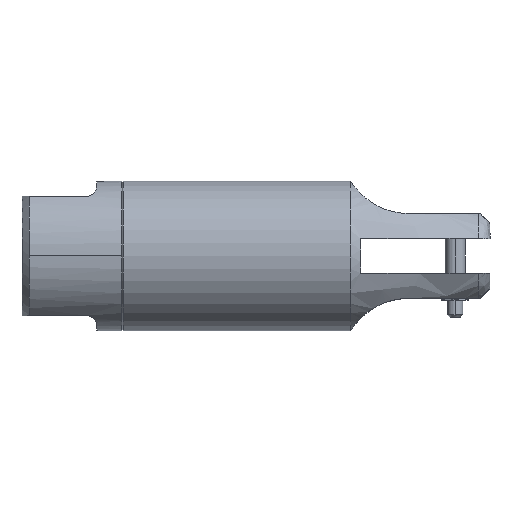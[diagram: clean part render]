
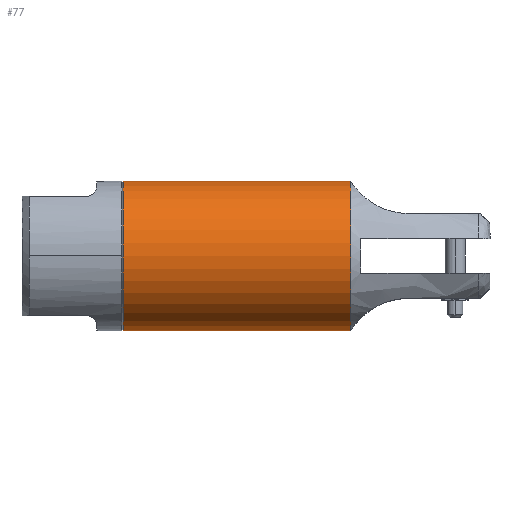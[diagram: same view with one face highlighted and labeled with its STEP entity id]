
A CAD part, top view. The second image highlights one B-rep face of the part: STEP entity #77.
In plain terms, the highlighted cylindrical face has radius 15 mm (diameter 30 mm), a partial arc.
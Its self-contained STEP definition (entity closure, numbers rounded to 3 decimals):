
#77 = ADVANCED_FACE ( 'NONE', ( #1705 ), #3536, .T. ) ;
#101 = ORIENTED_EDGE ( 'NONE', *, *, #1030, .F. ) ;
#126 = CARTESIAN_POINT ( 'NONE',  ( 22.85, 0., 0. ) ) ;
#212 = CARTESIAN_POINT ( 'NONE',  ( -22.85, 0., 15. ) ) ;
#390 = EDGE_LOOP ( 'NONE', ( #2101, #730, #101, #965, #3627 ) ) ;
#419 = AXIS2_PLACEMENT_3D ( 'NONE', #975, #1992, #1344 ) ;
#600 = CARTESIAN_POINT ( 'NONE',  ( 22.85, 0., 0. ) ) ;
#685 = DIRECTION ( 'NONE',  ( -1., 0., 0. ) ) ;
#702 = EDGE_CURVE ( 'NONE', #4684, #2355, #4637, .T. ) ;
#712 = DIRECTION ( 'NONE',  ( -1., 0., 0. ) ) ;
#716 = AXIS2_PLACEMENT_3D ( 'NONE', #2849, #685, #3207 ) ;
#730 = ORIENTED_EDGE ( 'NONE', *, *, #702, .T. ) ;
#965 = ORIENTED_EDGE ( 'NONE', *, *, #2793, .F. ) ;
#967 = CIRCLE ( 'NONE', #3841, 15. ) ;
#975 = CARTESIAN_POINT ( 'NONE',  ( -22.85, 0., 0. ) ) ;
#983 = DIRECTION ( 'NONE',  ( -1., 0., 0. ) ) ;
#1030 = EDGE_CURVE ( 'NONE', #3282, #2355, #4446, .T. ) ;
#1258 = EDGE_CURVE ( 'NONE', #1868, #4684, #967, .T. ) ;
#1311 = CARTESIAN_POINT ( 'NONE',  ( 22.85, -15., 0. ) ) ;
#1344 = DIRECTION ( 'NONE',  ( 0., 0., 1. ) ) ;
#1438 = LINE ( 'NONE', #1311, #4484 ) ;
#1705 = FACE_OUTER_BOUND ( 'NONE', #390, .T. ) ;
#1845 = CIRCLE ( 'NONE', #716, 15. ) ;
#1868 = VERTEX_POINT ( 'NONE', #3778 ) ;
#1967 = EDGE_CURVE ( 'NONE', #1868, #4678, #1438, .T. ) ;
#1992 = DIRECTION ( 'NONE',  ( -1., 0., 0. ) ) ;
#2048 = DIRECTION ( 'NONE',  ( -1., 0., 0. ) ) ;
#2101 = ORIENTED_EDGE ( 'NONE', *, *, #1258, .T. ) ;
#2355 = VERTEX_POINT ( 'NONE', #3414 ) ;
#2436 = DIRECTION ( 'NONE',  ( 0., -1., 0. ) ) ;
#2653 = DIRECTION ( 'NONE',  ( -1., 0., 0. ) ) ;
#2793 = EDGE_CURVE ( 'NONE', #4678, #3282, #1845, .T. ) ;
#2849 = CARTESIAN_POINT ( 'NONE',  ( -22.85, 0., 0. ) ) ;
#3207 = DIRECTION ( 'NONE',  ( 0., 0., 1. ) ) ;
#3265 = CARTESIAN_POINT ( 'NONE',  ( 22.85, 15., 0. ) ) ;
#3282 = VERTEX_POINT ( 'NONE', #212 ) ;
#3313 = AXIS2_PLACEMENT_3D ( 'NONE', #126, #2653, #4488 ) ;
#3347 = CARTESIAN_POINT ( 'NONE',  ( -22.85, -15., 0. ) ) ;
#3414 = CARTESIAN_POINT ( 'NONE',  ( -22.85, 15., 0. ) ) ;
#3536 = CYLINDRICAL_SURFACE ( 'NONE', #3313, 15. ) ;
#3627 = ORIENTED_EDGE ( 'NONE', *, *, #1967, .F. ) ;
#3628 = VECTOR ( 'NONE', #712, 1000. ) ;
#3778 = CARTESIAN_POINT ( 'NONE',  ( 22.85, -15., 0. ) ) ;
#3841 = AXIS2_PLACEMENT_3D ( 'NONE', #600, #983, #2436 ) ;
#4089 = CARTESIAN_POINT ( 'NONE',  ( 22.85, 15., 0. ) ) ;
#4446 = CIRCLE ( 'NONE', #419, 15. ) ;
#4484 = VECTOR ( 'NONE', #2048, 1000. ) ;
#4488 = DIRECTION ( 'NONE',  ( 0., -1., 0. ) ) ;
#4637 = LINE ( 'NONE', #3265, #3628 ) ;
#4678 = VERTEX_POINT ( 'NONE', #3347 ) ;
#4684 = VERTEX_POINT ( 'NONE', #4089 ) ;
